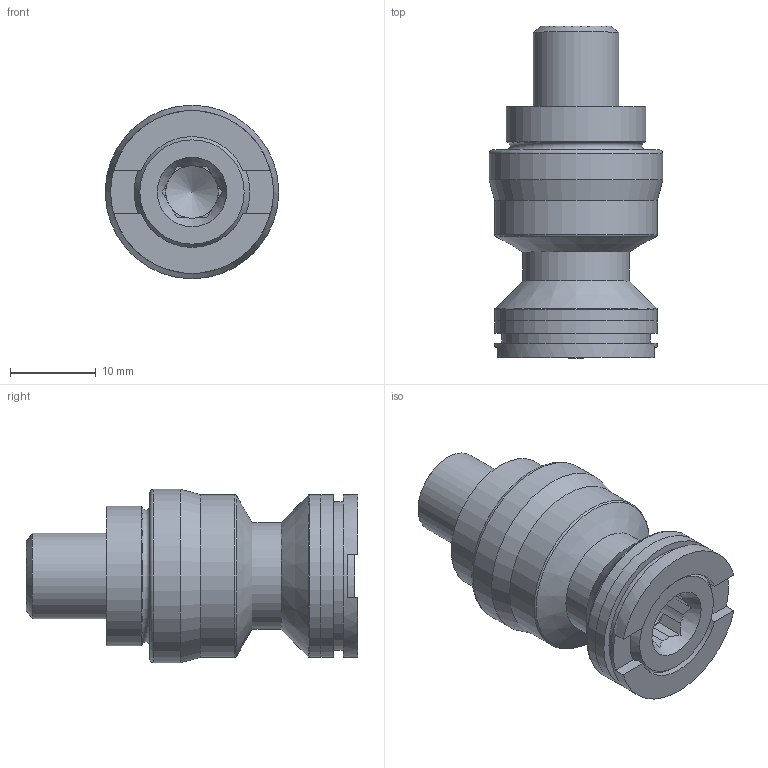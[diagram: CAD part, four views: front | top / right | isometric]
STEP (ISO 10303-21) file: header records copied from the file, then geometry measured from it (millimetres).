
FILE_DESCRIPTION (( 'STEP AP214' ), '1' );
FILE_NAME ('PS20F-PY_WEBSITE.STEP', '2025-08-11T12:21:51', ( '' ), ( '' ), 'SwSTEP 2.0', 'SolidWorks 2025', '' );
FILE_SCHEMA (( 'AUTOMOTIVE_DESIGN' ));
Length unit declared in the file: inch
Products named in the file (4): PS20F-PY_WEBSITE; D_PS20F-1_WEBSITE_HARD TURN; D_39874.CPSS_WEBSITE_91390A162; D_RL96-PY_WEBSITE
Assembly tree (3 placements, depth 2):
  PS20F-PY_WEBSITE
    D_PS20F-1_WEBSITE_HARD TURN
    D_39874.CPSS_WEBSITE_91390A162
    D_RL96-PY_WEBSITE
Bounding box: 20.28 x 38.79 x 20.28 mm (x, y, z)
Volume: 7448.6 mm3; surface area: 4433.9 mm2
Topology: 3 solids, 3 shells, 86 faces, 197 edges, 120 vertices
Faces by surface type: plane 47, cone 20, cylinder 14, torus 5
Full cylindrical faces by diameter (mm): 6.147 x1, 8.5 x1, 10 x2, 12.497 x1, 16.297 x1, 17.304 x1, 19.012 x4, 20.277 x1
Entity records: 3005 total; most frequent: CARTESIAN_POINT 498, DIRECTION 386, ORIENTED_EDGE 310, AXIS2_PLACEMENT_3D 161, EDGE_CURVE 155, EDGE_LOOP 122, VERTEX_POINT 109, FACE_OUTER_BOUND 103
